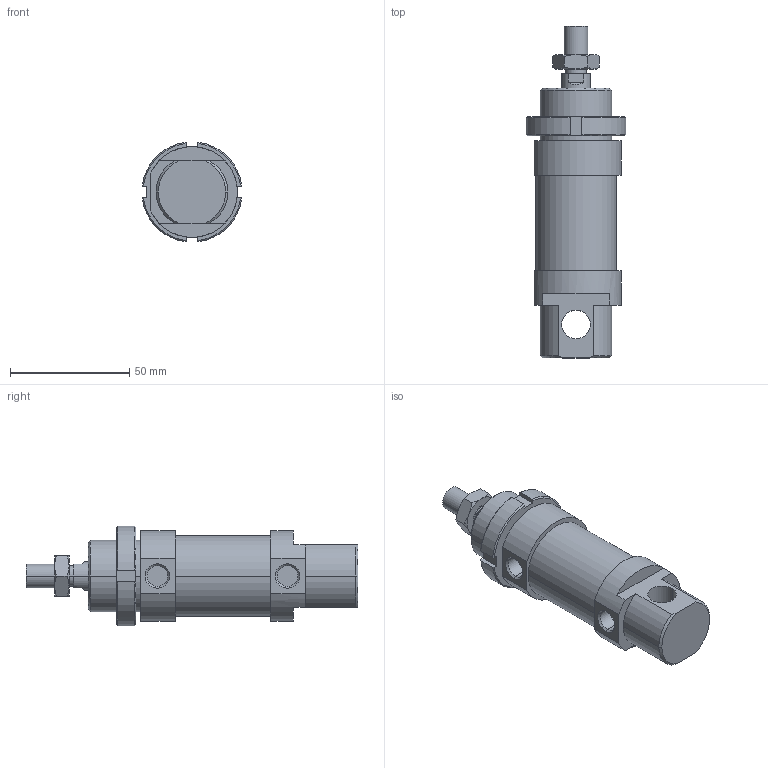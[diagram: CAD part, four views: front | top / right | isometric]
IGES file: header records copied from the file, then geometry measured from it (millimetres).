
Global section: file name: No Iges File Name specified; native system: AutoDesk Inventor R6.0; preprocessor: AutoDesk Inventor Iges Exporter R6.0; author: No Author specified; organization: No Organization specified; date: 20030407.191704; units: millimetre
Bounding box: 41.7 x 139 x 41.7 mm (x, y, z)
Volume: 101692.7 mm3; surface area: 23496.9 mm2
Topology: 4 solids, 4 shells, 122 faces, 286 edges, 180 vertices
Faces by surface type: plane 44, cone 30, cylinder 22, bspline 20, revolution 6
